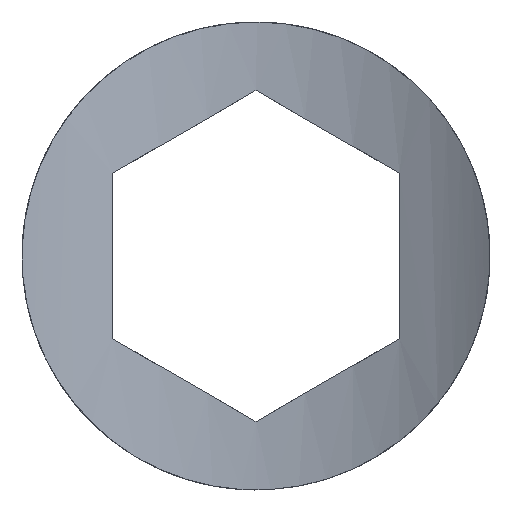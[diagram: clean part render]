
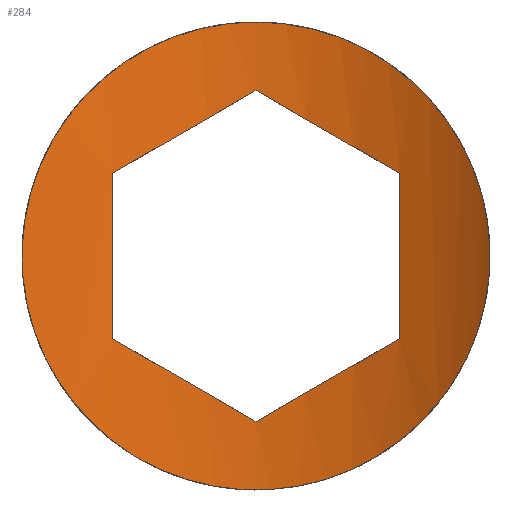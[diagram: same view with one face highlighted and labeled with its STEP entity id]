
A CAD part, front view. The second image highlights one B-rep face of the part: STEP entity #284.
In plain terms, the highlighted cylindrical face has radius 2.5 mm (diameter 5 mm), a partial arc.
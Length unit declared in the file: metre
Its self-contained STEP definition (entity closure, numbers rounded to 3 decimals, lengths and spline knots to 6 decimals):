
#27=LINE('',#490,#41);
#28=LINE('',#493,#42);
#41=VECTOR('',#359,1.);
#42=VECTOR('',#362,1.);
#55=ELLIPSE('',#317,0.002887,0.0025);
#56=ELLIPSE('',#319,0.002887,0.0025);
#57=ELLIPSE('',#320,0.002887,0.0025);
#58=ELLIPSE('',#321,0.002887,0.0025);
#79=ORIENTED_EDGE('',*,*,#164,.T.);
#80=ORIENTED_EDGE('',*,*,#165,.T.);
#81=ORIENTED_EDGE('',*,*,#166,.T.);
#82=ORIENTED_EDGE('',*,*,#167,.T.);
#83=ORIENTED_EDGE('',*,*,#168,.T.);
#84=ORIENTED_EDGE('',*,*,#163,.T.);
#85=ORIENTED_EDGE('',*,*,#169,.T.);
#163=EDGE_CURVE('',#204,#205,#55,.T.);
#164=EDGE_CURVE('',#206,#206,#228,.T.);
#165=EDGE_CURVE('',#207,#208,#56,.T.);
#166=EDGE_CURVE('',#208,#209,#57,.T.);
#167=EDGE_CURVE('',#209,#210,#27,.T.);
#168=EDGE_CURVE('',#210,#204,#58,.T.);
#169=EDGE_CURVE('',#205,#207,#28,.T.);
#204=VERTEX_POINT('',#460);
#205=VERTEX_POINT('',#462);
#206=VERTEX_POINT('',#484);
#207=VERTEX_POINT('',#486);
#208=VERTEX_POINT('',#487);
#209=VERTEX_POINT('',#489);
#210=VERTEX_POINT('',#491);
#228=B_SPLINE_CURVE_WITH_KNOTS('',3,(#465,#466,#467,#468,#469,#470,#471,
#472,#473,#474,#475,#476,#477,#478,#479,#480,#481,#482,#483),
 .UNSPECIFIED.,.T.,.F.,(1,1,1,1,1,1,1,1,1,1,1,1,1,1,1,1,1,1,1,1,1,1,1),
(-0.001866,-0.001244,-0.000622,0.,0.000622,
0.001244,0.001866,0.002487,0.003109,
0.003731,0.004353,0.004975,0.005597,
0.006219,0.00684,0.007462,0.008084,
0.008706,0.009328,0.00995,0.010572,
0.011194,0.011815),.UNSPECIFIED.);
#242=EDGE_LOOP('',(#79));
#243=EDGE_LOOP('',(#80,#81,#82,#83,#84,#85));
#261=FACE_BOUND('',#242,.T.);
#262=FACE_BOUND('',#243,.T.);
#278=CYLINDRICAL_SURFACE('',#318,0.0025);
#284=ADVANCED_FACE('',(#261,#262),#278,.F.);
#317=AXIS2_PLACEMENT_3D('',#463,#351,#352);
#318=AXIS2_PLACEMENT_3D('',#464,#353,#354);
#319=AXIS2_PLACEMENT_3D('',#485,#355,#356);
#320=AXIS2_PLACEMENT_3D('',#488,#357,#358);
#321=AXIS2_PLACEMENT_3D('',#492,#360,#361);
#351=DIRECTION('',(0.5,0.,0.866));
#352=DIRECTION('',(-0.866,0.,0.5));
#353=DIRECTION('',(0.,0.,1.));
#354=DIRECTION('',(0.,-1.,0.));
#355=DIRECTION('',(0.5,0.,-0.866));
#356=DIRECTION('',(0.866,0.,0.5));
#357=DIRECTION('',(-0.5,0.,-0.866));
#358=DIRECTION('',(0.866,0.,-0.5));
#359=DIRECTION('',(0.,0.,-1.));
#360=DIRECTION('',(-0.5,0.,0.866));
#361=DIRECTION('',(-0.866,0.,-0.5));
#362=DIRECTION('',(0.,0.,1.));
#460=CARTESIAN_POINT('',(-0.040677,-0.040352,-0.230789));
#462=CARTESIAN_POINT('',(-0.041627,-0.040539,-0.23024));
#463=CARTESIAN_POINT('',(-0.040677,-0.042852,-0.230789));
#464=CARTESIAN_POINT('',(-0.040677,-0.042852,-0.233507));
#465=CARTESIAN_POINT('',(-0.041212,-0.040385,-0.231191));
#466=CARTESIAN_POINT('',(-0.040575,-0.040326,-0.231282));
#467=CARTESIAN_POINT('',(-0.039965,-0.040432,-0.231114));
#468=CARTESIAN_POINT('',(-0.039489,-0.040636,-0.230744));
#469=CARTESIAN_POINT('',(-0.039181,-0.040844,-0.230231));
#470=CARTESIAN_POINT('',(-0.039086,-0.040924,-0.229595));
#471=CARTESIAN_POINT('',(-0.039253,-0.040788,-0.228986));
#472=CARTESIAN_POINT('',(-0.039616,-0.04057,-0.228511));
#473=CARTESIAN_POINT('',(-0.040136,-0.040386,-0.228195));
#474=CARTESIAN_POINT('',(-0.040774,-0.040326,-0.228101));
#475=CARTESIAN_POINT('',(-0.041385,-0.040431,-0.228268));
#476=CARTESIAN_POINT('',(-0.041863,-0.040635,-0.228638));
#477=CARTESIAN_POINT('',(-0.042173,-0.040844,-0.229152));
#478=CARTESIAN_POINT('',(-0.042268,-0.040924,-0.22979));
#479=CARTESIAN_POINT('',(-0.0421,-0.040788,-0.230399));
#480=CARTESIAN_POINT('',(-0.041735,-0.040569,-0.230875));
#481=CARTESIAN_POINT('',(-0.041212,-0.040385,-0.231191));
#482=CARTESIAN_POINT('',(-0.040575,-0.040326,-0.231282));
#483=CARTESIAN_POINT('',(-0.039965,-0.040432,-0.231114));
#484=CARTESIAN_POINT('',(-0.04058,-0.040353,-0.231239));
#485=CARTESIAN_POINT('',(-0.040677,-0.042852,-0.228595));
#486=CARTESIAN_POINT('',(-0.041627,-0.040539,-0.229143));
#487=CARTESIAN_POINT('',(-0.040677,-0.040352,-0.228595));
#488=CARTESIAN_POINT('',(-0.040677,-0.042852,-0.228595));
#489=CARTESIAN_POINT('',(-0.039727,-0.040539,-0.229143));
#490=CARTESIAN_POINT('',(-0.039727,-0.040539,-0.233507));
#491=CARTESIAN_POINT('',(-0.039727,-0.040539,-0.23024));
#492=CARTESIAN_POINT('',(-0.040677,-0.042852,-0.230789));
#493=CARTESIAN_POINT('',(-0.041627,-0.040539,-0.233507));
